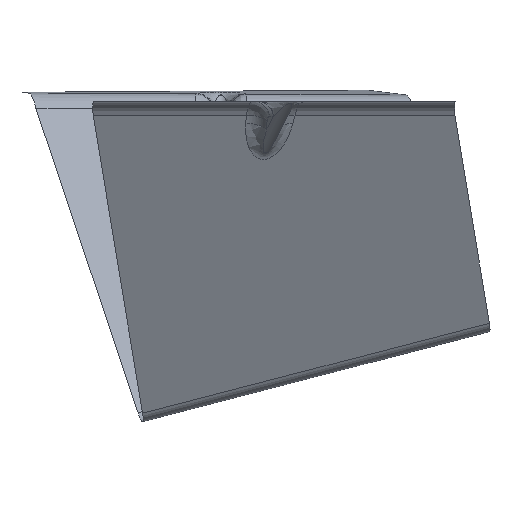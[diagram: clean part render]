
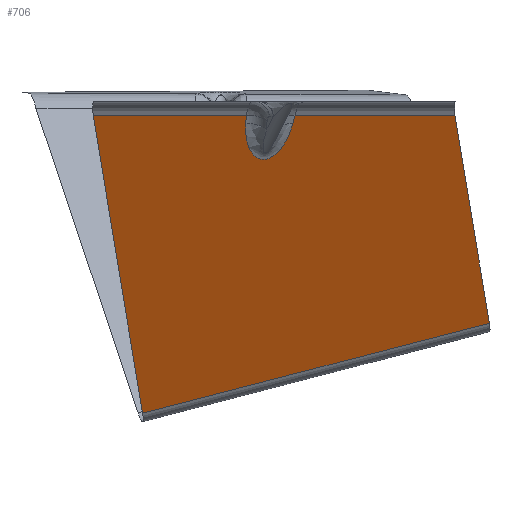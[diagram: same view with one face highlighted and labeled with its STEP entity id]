
A CAD part, left-side view. The second image highlights one B-rep face of the part: STEP entity #706.
In plain terms, the highlighted planar face has unit normal (-0.83, -0.249, -0.5).
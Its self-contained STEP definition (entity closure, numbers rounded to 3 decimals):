
#251=CARTESIAN_POINT('Vertex',(-92.534,7.78,-1.05)) ;
#274=CARTESIAN_POINT('Line Origine',(-73.596,10.004,-33.574)) ;
#278=CARTESIAN_POINT('Vertex',(-91.188,7.938,-3.361)) ;
#591=CARTESIAN_POINT('Control Point',(-87.283,-5.079,-3.361)) ;
#592=CARTESIAN_POINT('Control Point',(-87.068,-4.971,-3.772)) ;
#593=CARTESIAN_POINT('Control Point',(-86.855,-4.852,-4.183)) ;
#594=CARTESIAN_POINT('Control Point',(-86.647,-4.724,-4.594)) ;
#595=CARTESIAN_POINT('Control Point',(-86.058,-4.323,-5.769)) ;
#596=CARTESIAN_POINT('Control Point',(-85.503,-3.829,-6.936)) ;
#597=CARTESIAN_POINT('Control Point',(-85.16,-3.466,-7.686)) ;
#598=CARTESIAN_POINT('Control Point',(-84.698,-2.881,-8.744)) ;
#599=CARTESIAN_POINT('Control Point',(-84.292,-2.17,-9.771)) ;
#600=CARTESIAN_POINT('Control Point',(-84.178,-1.949,-10.07)) ;
#601=CARTESIAN_POINT('Control Point',(-83.981,-1.518,-10.612)) ;
#602=CARTESIAN_POINT('Control Point',(-83.811,-1.036,-11.134)) ;
#603=CARTESIAN_POINT('Control Point',(-83.74,-0.805,-11.366)) ;
#604=CARTESIAN_POINT('Control Point',(-83.627,-0.365,-11.773)) ;
#605=CARTESIAN_POINT('Control Point',(-83.545,0.124,-12.152)) ;
#606=CARTESIAN_POINT('Control Point',(-83.516,0.352,-12.313)) ;
#607=CARTESIAN_POINT('Control Point',(-83.473,0.873,-12.645)) ;
#608=CARTESIAN_POINT('Control Point',(-83.482,1.455,-12.919)) ;
#609=CARTESIAN_POINT('Control Point',(-83.506,1.791,-13.047)) ;
#610=CARTESIAN_POINT('Control Point',(-83.587,2.371,-13.201)) ;
#611=CARTESIAN_POINT('Control Point',(-83.738,2.966,-13.247)) ;
#612=CARTESIAN_POINT('Control Point',(-83.808,3.199,-13.246)) ;
#613=CARTESIAN_POINT('Control Point',(-84.023,3.81,-13.193)) ;
#614=CARTESIAN_POINT('Control Point',(-84.293,4.362,-13.02)) ;
#615=CARTESIAN_POINT('Control Point',(-84.477,4.677,-12.872)) ;
#616=CARTESIAN_POINT('Control Point',(-84.8,5.163,-12.578)) ;
#617=CARTESIAN_POINT('Control Point',(-85.132,5.569,-12.23)) ;
#618=CARTESIAN_POINT('Control Point',(-85.273,5.728,-12.075)) ;
#619=CARTESIAN_POINT('Control Point',(-85.591,6.062,-11.713)) ;
#620=CARTESIAN_POINT('Control Point',(-85.909,6.346,-11.327)) ;
#621=CARTESIAN_POINT('Control Point',(-86.085,6.49,-11.106)) ;
#622=CARTESIAN_POINT('Control Point',(-86.483,6.79,-10.596)) ;
#623=CARTESIAN_POINT('Control Point',(-86.875,7.035,-10.067)) ;
#624=CARTESIAN_POINT('Control Point',(-87.093,7.157,-9.767)) ;
#625=CARTESIAN_POINT('Control Point',(-87.577,7.403,-9.085)) ;
#626=CARTESIAN_POINT('Control Point',(-88.052,7.588,-8.39)) ;
#627=CARTESIAN_POINT('Control Point',(-88.314,7.676,-8.)) ;
#628=CARTESIAN_POINT('Control Point',(-89.07,7.888,-6.851)) ;
#629=CARTESIAN_POINT('Control Point',(-89.802,7.985,-5.685)) ;
#630=CARTESIAN_POINT('Control Point',(-90.274,8.008,-4.913)) ;
#631=CARTESIAN_POINT('Control Point',(-90.736,7.991,-4.138)) ;
#632=CARTESIAN_POINT('Control Point',(-91.188,7.938,-3.361)) ;
#633=CARTESIAN_POINT('Vertex',(-87.283,-5.079,-3.361)) ;
#651=CARTESIAN_POINT('Axis2P3D Location',(-41.166,-12.35,-76.25)) ;
#656=CARTESIAN_POINT('Line Origine',(-87.888,-5.384,-2.206)) ;
#660=CARTESIAN_POINT('Vertex',(-88.493,-5.688,-1.05)) ;
#663=CARTESIAN_POINT('Line Origine',(-98.886,28.953,-1.05)) ;
#667=CARTESIAN_POINT('Vertex',(-105.238,50.126,-1.05)) ;
#670=CARTESIAN_POINT('Line Origine',(-78.375,43.297,-42.216)) ;
#674=CARTESIAN_POINT('Vertex',(-51.513,36.467,-83.381)) ;
#677=CARTESIAN_POINT('Line Origine',(-44.632,-11.469,-70.939)) ;
#681=CARTESIAN_POINT('Vertex',(-37.751,-59.404,-58.496)) ;
#684=CARTESIAN_POINT('Line Origine',(-56.495,-54.639,-29.773)) ;
#688=CARTESIAN_POINT('Vertex',(-75.238,-49.874,-1.05)) ;
#691=CARTESIAN_POINT('Line Origine',(-81.865,-27.781,-1.05)) ;
#275=DIRECTION('Vector Direction',(0.502,0.059,-0.863)) ;
#652=DIRECTION('Axis2P3D Direction',(0.83,0.249,0.5)) ;
#653=DIRECTION('Axis2P3D XDirection',(0.541,-0.138,-0.83)) ;
#657=DIRECTION('Vector Direction',(-0.452,-0.227,0.863)) ;
#664=DIRECTION('Vector Direction',(0.287,-0.958,0.)) ;
#671=DIRECTION('Vector Direction',(0.541,-0.138,-0.83)) ;
#678=DIRECTION('Vector Direction',(0.138,-0.959,0.249)) ;
#685=DIRECTION('Vector Direction',(-0.541,0.138,0.83)) ;
#692=DIRECTION('Vector Direction',(0.287,-0.958,0.)) ;
#654=AXIS2_PLACEMENT_3D('Plane Axis2P3D',#651,#652,#653) ;
#697=ORIENTED_EDGE('',*,*,#662,.T.) ;
#698=ORIENTED_EDGE('',*,*,#635,.T.) ;
#699=ORIENTED_EDGE('',*,*,#280,.T.) ;
#700=ORIENTED_EDGE('',*,*,#669,.F.) ;
#701=ORIENTED_EDGE('',*,*,#676,.T.) ;
#702=ORIENTED_EDGE('',*,*,#683,.T.) ;
#703=ORIENTED_EDGE('',*,*,#690,.T.) ;
#704=ORIENTED_EDGE('',*,*,#695,.F.) ;
#276=VECTOR('Line Direction',#275,1.) ;
#658=VECTOR('Line Direction',#657,1.) ;
#665=VECTOR('Line Direction',#664,1.) ;
#672=VECTOR('Line Direction',#671,1.) ;
#679=VECTOR('Line Direction',#678,1.) ;
#686=VECTOR('Line Direction',#685,1.) ;
#693=VECTOR('Line Direction',#692,1.) ;
#706=ADVANCED_FACE('Extract.1',(#705),#655,.F.) ;
#590=B_SPLINE_CURVE_WITH_KNOTS('',5,(#591,#592,#593,#594,#595,#596,#597,#598,#599,#600,#601,#602,#603,#604,#605,#606,#607,#608,#609,#610,#611,#612,#613,#614,#615,#616,#617,#618,#619,#620,#621,#622,#623,#624,#625,#626,#627,#628,#629,#630,#631,#632),.UNSPECIFIED.,.F.,.U.,(6,3,3,3,3,3,3,3,3,3,3,3,3,6),(24.261,27.433,33.362,35.844,37.913,39.561,41.497,42.756,44.872,46.424,48.383,50.868,53.969,59.959),.UNSPECIFIED.) ;
#280=EDGE_CURVE('',#279,#252,#277,.F.) ;
#635=EDGE_CURVE('',#634,#279,#590,.T.) ;
#662=EDGE_CURVE('',#661,#634,#659,.F.) ;
#669=EDGE_CURVE('',#668,#252,#666,.T.) ;
#676=EDGE_CURVE('',#668,#675,#673,.T.) ;
#683=EDGE_CURVE('',#675,#682,#680,.T.) ;
#690=EDGE_CURVE('',#682,#689,#687,.T.) ;
#695=EDGE_CURVE('',#661,#689,#694,.T.) ;
#696=EDGE_LOOP('',(#697,#698,#699,#700,#701,#702,#703,#704)) ;
#705=FACE_OUTER_BOUND('',#696,.T.) ;
#277=LINE('Line',#274,#276) ;
#659=LINE('Line',#656,#658) ;
#666=LINE('Line',#663,#665) ;
#673=LINE('Line',#670,#672) ;
#680=LINE('Line',#677,#679) ;
#687=LINE('Line',#684,#686) ;
#694=LINE('Line',#691,#693) ;
#655=PLANE('',#654) ;
#252=VERTEX_POINT('',#251) ;
#279=VERTEX_POINT('',#278) ;
#634=VERTEX_POINT('',#633) ;
#661=VERTEX_POINT('',#660) ;
#668=VERTEX_POINT('',#667) ;
#675=VERTEX_POINT('',#674) ;
#682=VERTEX_POINT('',#681) ;
#689=VERTEX_POINT('',#688) ;
